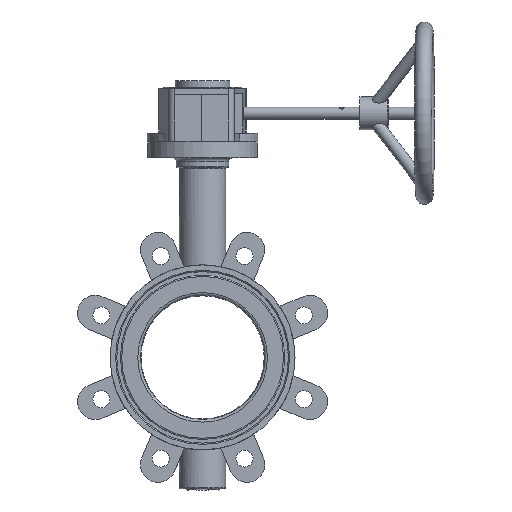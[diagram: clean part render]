
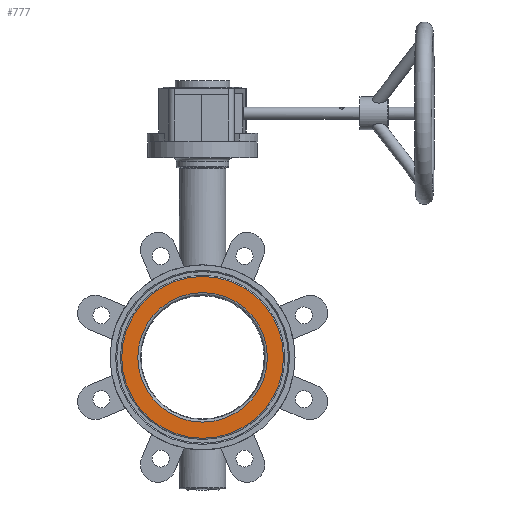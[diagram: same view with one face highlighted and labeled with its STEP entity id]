
A CAD part, front view. The second image highlights one B-rep face of the part: STEP entity #777.
In plain terms, the highlighted planar face has unit normal (0, -1, 0) as drawn and (1, 0, 0) by its records, which use the part's own axes.
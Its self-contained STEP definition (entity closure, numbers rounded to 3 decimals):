
#123 = DIRECTION ( 'NONE',  ( 0., 0., 1. ) ) ;
#167 = AXIS2_PLACEMENT_3D ( 'NONE', #5229, #8006, #123 ) ;
#189 = ORIENTED_EDGE ( 'NONE', *, *, #6264, .T. ) ;
#777 = ADVANCED_FACE ( 'NONE', ( #6144, #6475 ), #6782, .F. ) ;
#885 = DIRECTION ( 'NONE',  ( 0., 0., 1. ) ) ;
#1649 = CIRCLE ( 'NONE', #8197, 66.5 ) ;
#1795 = CIRCLE ( 'NONE', #167, 53.246 ) ;
#2383 = CARTESIAN_POINT ( 'NONE',  ( 28., 67.5, 0. ) ) ;
#2752 = AXIS2_PLACEMENT_3D ( 'NONE', #2383, #7468, #7526 ) ;
#3024 = CARTESIAN_POINT ( 'NONE',  ( 28., 0., 0. ) ) ;
#3162 = ORIENTED_EDGE ( 'NONE', *, *, #4203, .T. ) ;
#3278 = EDGE_LOOP ( 'NONE', ( #189 ) ) ;
#4203 = EDGE_CURVE ( 'NONE', #8674, #8674, #1795, .T. ) ;
#4536 = DIRECTION ( 'NONE',  ( 1., 0., 0. ) ) ;
#5229 = CARTESIAN_POINT ( 'NONE',  ( 28., 0., 0. ) ) ;
#6144 = FACE_OUTER_BOUND ( 'NONE', #3278, .T. ) ;
#6264 = EDGE_CURVE ( 'NONE', #7432, #7432, #1649, .T. ) ;
#6475 = FACE_BOUND ( 'NONE', #7823, .T. ) ;
#6619 = CARTESIAN_POINT ( 'NONE',  ( 28., 0., 66.5 ) ) ;
#6782 = PLANE ( 'NONE',  #2752 ) ;
#7335 = CARTESIAN_POINT ( 'NONE',  ( 28., 0., 53.246 ) ) ;
#7432 = VERTEX_POINT ( 'NONE', #6619 ) ;
#7468 = DIRECTION ( 'NONE',  ( -1., 0., 0. ) ) ;
#7526 = DIRECTION ( 'NONE',  ( 0., 0., 1. ) ) ;
#7823 = EDGE_LOOP ( 'NONE', ( #3162 ) ) ;
#8006 = DIRECTION ( 'NONE',  ( -1., 0., 0. ) ) ;
#8197 = AXIS2_PLACEMENT_3D ( 'NONE', #3024, #4536, #885 ) ;
#8674 = VERTEX_POINT ( 'NONE', #7335 ) ;
